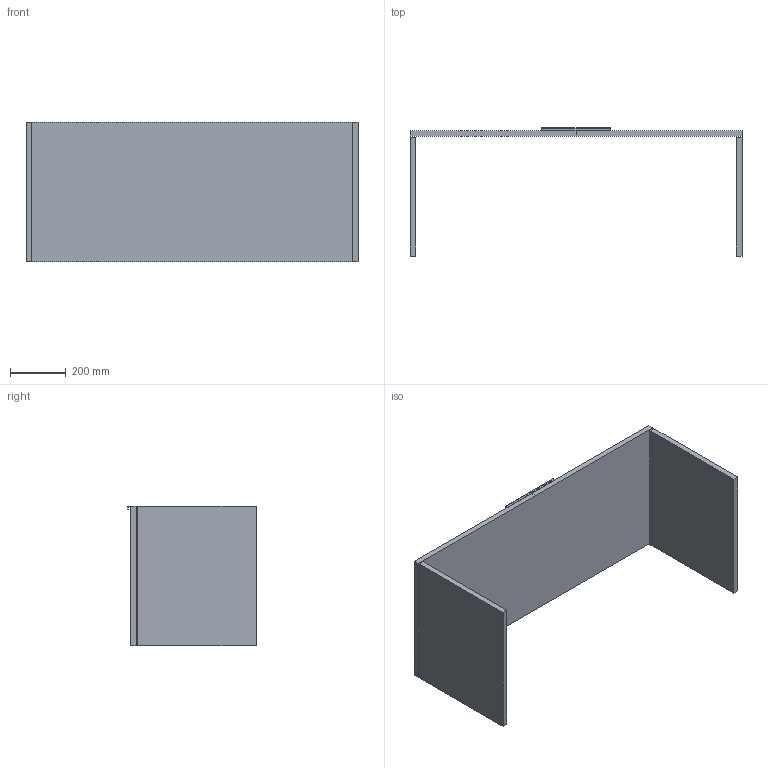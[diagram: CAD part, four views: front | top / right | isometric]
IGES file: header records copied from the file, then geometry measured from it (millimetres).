
Start section: START RECORD GO HERE.
Global section: file name: 7245.igs; native system: DASSAULT SYSTEMES CATIA V5 R19 - www.3ds.com; preprocessor: CATIA Version 5 Release 19 SP 5 ; author: gioge; organization: LAPTOP-G94B6G74; date: 20201002.172049; units: millimetre
Bounding box: 1190 x 460 x 500 mm (x, y, z)
Surface area: 2191472 mm2 (no closed solid volume)
Topology: 0 solids, 0 shells, 28 faces, 120 edges, 120 vertices
Faces by surface type: plane 28
